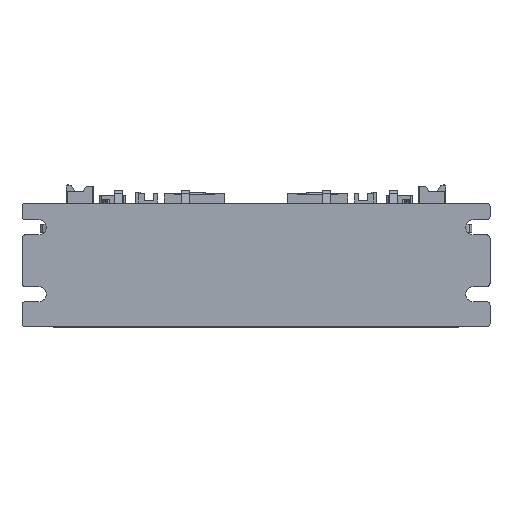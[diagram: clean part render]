
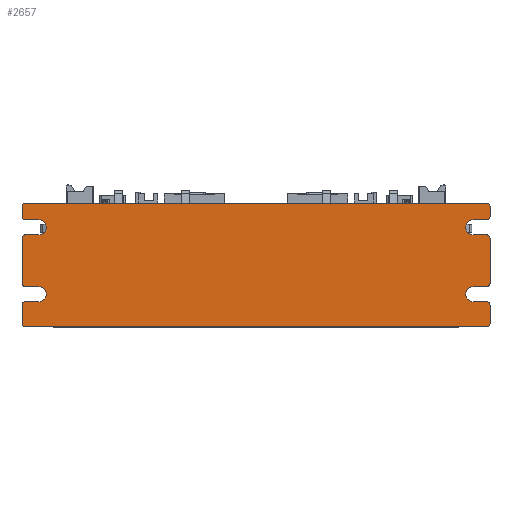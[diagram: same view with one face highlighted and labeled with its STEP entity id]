
A CAD part, top view. The second image highlights one B-rep face of the part: STEP entity #2657.
In plain terms, the highlighted planar face has unit normal (0, 0, 1).
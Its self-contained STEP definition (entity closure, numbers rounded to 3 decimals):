
#159=DIRECTION('',(1.,0.,0.));
#160=VECTOR('',#159,138.);
#161=CARTESIAN_POINT('',(-69.,0.,46.));
#162=LINE('',#161,#160);
#590=DIRECTION('',(0.,1.,0.));
#591=VECTOR('',#590,5.5);
#592=CARTESIAN_POINT('',(70.,1.,46.));
#593=LINE('',#592,#591);
#602=DIRECTION('',(0.,1.,0.));
#603=VECTOR('',#602,13.5);
#604=CARTESIAN_POINT('',(70.,13.,46.));
#605=LINE('',#604,#603);
#622=DIRECTION('',(0.,1.,0.));
#623=VECTOR('',#622,3.);
#624=CARTESIAN_POINT('',(70.,33.,46.));
#625=LINE('',#624,#623);
#638=CARTESIAN_POINT('',(-69.,1.,46.));
#639=DIRECTION('',(0.,0.,1.));
#640=DIRECTION('',(-1.,0.,0.));
#641=AXIS2_PLACEMENT_3D('',#638,#639,#640);
#643=CARTESIAN_POINT('',(-69.,6.5,46.));
#644=DIRECTION('',(0.,0.,1.));
#645=DIRECTION('',(0.,1.,0.));
#646=AXIS2_PLACEMENT_3D('',#643,#644,#645);
#648=DIRECTION('',(1.,0.,0.));
#649=VECTOR('',#648,4.);
#650=CARTESIAN_POINT('',(-69.,7.5,46.));
#651=LINE('',#650,#649);
#652=CARTESIAN_POINT('',(-65.,9.75,46.));
#653=DIRECTION('',(0.,0.,-1.));
#654=DIRECTION('',(0.,1.,0.));
#655=AXIS2_PLACEMENT_3D('',#652,#653,#654);
#657=DIRECTION('',(1.,0.,0.));
#658=VECTOR('',#657,4.);
#659=CARTESIAN_POINT('',(-69.,12.,46.));
#660=LINE('',#659,#658);
#661=CARTESIAN_POINT('',(-69.,13.,46.));
#662=DIRECTION('',(0.,0.,1.));
#663=DIRECTION('',(-1.,0.,0.));
#664=AXIS2_PLACEMENT_3D('',#661,#662,#663);
#666=CARTESIAN_POINT('',(-69.,26.5,46.));
#667=DIRECTION('',(0.,0.,1.));
#668=DIRECTION('',(0.,1.,0.));
#669=AXIS2_PLACEMENT_3D('',#666,#667,#668);
#671=DIRECTION('',(1.,0.,0.));
#672=VECTOR('',#671,4.);
#673=CARTESIAN_POINT('',(-69.,27.5,46.));
#674=LINE('',#673,#672);
#675=CARTESIAN_POINT('',(-65.,29.75,46.));
#676=DIRECTION('',(0.,0.,-1.));
#677=DIRECTION('',(0.,1.,0.));
#678=AXIS2_PLACEMENT_3D('',#675,#676,#677);
#680=DIRECTION('',(1.,0.,0.));
#681=VECTOR('',#680,4.);
#682=CARTESIAN_POINT('',(-69.,32.,46.));
#683=LINE('',#682,#681);
#684=CARTESIAN_POINT('',(-69.,33.,46.));
#685=DIRECTION('',(0.,0.,1.));
#686=DIRECTION('',(-1.,0.,0.));
#687=AXIS2_PLACEMENT_3D('',#684,#685,#686);
#689=CARTESIAN_POINT('',(-69.,36.,46.));
#690=DIRECTION('',(0.,0.,1.));
#691=DIRECTION('',(0.,1.,0.));
#692=AXIS2_PLACEMENT_3D('',#689,#690,#691);
#694=CARTESIAN_POINT('',(69.,36.,46.));
#695=DIRECTION('',(0.,0.,1.));
#696=DIRECTION('',(1.,0.,0.));
#697=AXIS2_PLACEMENT_3D('',#694,#695,#696);
#699=CARTESIAN_POINT('',(69.,33.,46.));
#700=DIRECTION('',(0.,0.,1.));
#701=DIRECTION('',(0.,-1.,0.));
#702=AXIS2_PLACEMENT_3D('',#699,#700,#701);
#704=DIRECTION('',(-1.,0.,0.));
#705=VECTOR('',#704,4.);
#706=CARTESIAN_POINT('',(69.,32.,46.));
#707=LINE('',#706,#705);
#708=CARTESIAN_POINT('',(65.,29.75,46.));
#709=DIRECTION('',(0.,0.,-1.));
#710=DIRECTION('',(0.,-1.,0.));
#711=AXIS2_PLACEMENT_3D('',#708,#709,#710);
#713=DIRECTION('',(-1.,0.,0.));
#714=VECTOR('',#713,4.);
#715=CARTESIAN_POINT('',(69.,27.5,46.));
#716=LINE('',#715,#714);
#717=CARTESIAN_POINT('',(69.,26.5,46.));
#718=DIRECTION('',(0.,0.,1.));
#719=DIRECTION('',(1.,0.,0.));
#720=AXIS2_PLACEMENT_3D('',#717,#718,#719);
#722=CARTESIAN_POINT('',(69.,13.,46.));
#723=DIRECTION('',(0.,0.,1.));
#724=DIRECTION('',(0.,-1.,0.));
#725=AXIS2_PLACEMENT_3D('',#722,#723,#724);
#727=DIRECTION('',(-1.,0.,0.));
#728=VECTOR('',#727,4.);
#729=CARTESIAN_POINT('',(69.,12.,46.));
#730=LINE('',#729,#728);
#731=CARTESIAN_POINT('',(65.,9.75,46.));
#732=DIRECTION('',(0.,0.,-1.));
#733=DIRECTION('',(0.,-1.,0.));
#734=AXIS2_PLACEMENT_3D('',#731,#732,#733);
#736=DIRECTION('',(-1.,0.,0.));
#737=VECTOR('',#736,4.);
#738=CARTESIAN_POINT('',(69.,7.5,46.));
#739=LINE('',#738,#737);
#740=CARTESIAN_POINT('',(69.,6.5,46.));
#741=DIRECTION('',(0.,0.,1.));
#742=DIRECTION('',(1.,0.,0.));
#743=AXIS2_PLACEMENT_3D('',#740,#741,#742);
#745=CARTESIAN_POINT('',(69.,1.,46.));
#746=DIRECTION('',(0.,0.,1.));
#747=DIRECTION('',(0.,-1.,0.));
#748=AXIS2_PLACEMENT_3D('',#745,#746,#747);
#758=DIRECTION('',(0.,-1.,0.));
#759=VECTOR('',#758,5.5);
#760=CARTESIAN_POINT('',(-70.,6.5,46.));
#761=LINE('',#760,#759);
#774=DIRECTION('',(0.,-1.,0.));
#775=VECTOR('',#774,13.5);
#776=CARTESIAN_POINT('',(-70.,26.5,46.));
#777=LINE('',#776,#775);
#790=DIRECTION('',(0.,-1.,0.));
#791=VECTOR('',#790,3.);
#792=CARTESIAN_POINT('',(-70.,36.,46.));
#793=LINE('',#792,#791);
#838=DIRECTION('',(1.,0.,0.));
#839=VECTOR('',#838,138.);
#840=CARTESIAN_POINT('',(-69.,37.,46.));
#841=LINE('',#840,#839);
#1433=CARTESIAN_POINT('',(-65.,12.,46.));
#1434=CARTESIAN_POINT('',(-65.,7.5,46.));
#1435=VERTEX_POINT('',#1433);
#1436=VERTEX_POINT('',#1434);
#1437=CARTESIAN_POINT('',(-65.,32.,46.));
#1438=CARTESIAN_POINT('',(-65.,27.5,46.));
#1439=VERTEX_POINT('',#1437);
#1440=VERTEX_POINT('',#1438);
#1441=CARTESIAN_POINT('',(65.,7.5,46.));
#1442=CARTESIAN_POINT('',(65.,12.,46.));
#1443=VERTEX_POINT('',#1441);
#1444=VERTEX_POINT('',#1442);
#1445=CARTESIAN_POINT('',(65.,27.5,46.));
#1446=CARTESIAN_POINT('',(65.,32.,46.));
#1447=VERTEX_POINT('',#1445);
#1448=VERTEX_POINT('',#1446);
#1461=CARTESIAN_POINT('',(-70.,1.,46.));
#1462=VERTEX_POINT('',#1461);
#1463=CARTESIAN_POINT('',(-69.,0.,46.));
#1464=VERTEX_POINT('',#1463);
#1469=CARTESIAN_POINT('',(-69.,7.5,46.));
#1470=VERTEX_POINT('',#1469);
#1471=CARTESIAN_POINT('',(-70.,6.5,46.));
#1472=VERTEX_POINT('',#1471);
#1473=CARTESIAN_POINT('',(-70.,13.,46.));
#1474=CARTESIAN_POINT('',(-69.,12.,46.));
#1475=VERTEX_POINT('',#1473);
#1476=VERTEX_POINT('',#1474);
#1485=CARTESIAN_POINT('',(-69.,27.5,46.));
#1486=VERTEX_POINT('',#1485);
#1487=CARTESIAN_POINT('',(-70.,26.5,46.));
#1488=VERTEX_POINT('',#1487);
#1489=CARTESIAN_POINT('',(-70.,33.,46.));
#1490=CARTESIAN_POINT('',(-69.,32.,46.));
#1491=VERTEX_POINT('',#1489);
#1492=VERTEX_POINT('',#1490);
#1497=CARTESIAN_POINT('',(-69.,37.,46.));
#1498=CARTESIAN_POINT('',(-70.,36.,46.));
#1499=VERTEX_POINT('',#1497);
#1500=VERTEX_POINT('',#1498);
#1505=CARTESIAN_POINT('',(69.,0.,46.));
#1506=CARTESIAN_POINT('',(70.,1.,46.));
#1507=VERTEX_POINT('',#1505);
#1508=VERTEX_POINT('',#1506);
#1513=CARTESIAN_POINT('',(70.,6.5,46.));
#1514=CARTESIAN_POINT('',(69.,7.5,46.));
#1515=VERTEX_POINT('',#1513);
#1516=VERTEX_POINT('',#1514);
#1525=CARTESIAN_POINT('',(69.,12.,46.));
#1526=VERTEX_POINT('',#1525);
#1527=CARTESIAN_POINT('',(70.,13.,46.));
#1528=VERTEX_POINT('',#1527);
#1529=CARTESIAN_POINT('',(70.,26.5,46.));
#1530=CARTESIAN_POINT('',(69.,27.5,46.));
#1531=VERTEX_POINT('',#1529);
#1532=VERTEX_POINT('',#1530);
#1537=CARTESIAN_POINT('',(69.,32.,46.));
#1539=VERTEX_POINT('',#1537);
#1541=CARTESIAN_POINT('',(70.,33.,46.));
#1542=VERTEX_POINT('',#1541);
#1549=CARTESIAN_POINT('',(70.,36.,46.));
#1550=VERTEX_POINT('',#1549);
#1551=CARTESIAN_POINT('',(69.,37.,46.));
#1552=VERTEX_POINT('',#1551);
#2591=CARTESIAN_POINT('',(-70.,0.,46.));
#2592=DIRECTION('',(0.,0.,1.));
#2593=DIRECTION('',(1.,0.,0.));
#2594=AXIS2_PLACEMENT_3D('',#2591,#2592,#2593);
#2595=PLANE('',#2594);
#2597=ORIENTED_EDGE('',*,*,#2596,.F.);
#2599=ORIENTED_EDGE('',*,*,#2598,.F.);
#2601=ORIENTED_EDGE('',*,*,#2600,.F.);
#2603=ORIENTED_EDGE('',*,*,#2602,.T.);
#2605=ORIENTED_EDGE('',*,*,#2604,.F.);
#2607=ORIENTED_EDGE('',*,*,#2606,.F.);
#2609=ORIENTED_EDGE('',*,*,#2608,.F.);
#2611=ORIENTED_EDGE('',*,*,#2610,.F.);
#2613=ORIENTED_EDGE('',*,*,#2612,.F.);
#2615=ORIENTED_EDGE('',*,*,#2614,.T.);
#2617=ORIENTED_EDGE('',*,*,#2616,.F.);
#2619=ORIENTED_EDGE('',*,*,#2618,.F.);
#2621=ORIENTED_EDGE('',*,*,#2620,.F.);
#2623=ORIENTED_EDGE('',*,*,#2622,.F.);
#2625=ORIENTED_EDGE('',*,*,#2624,.F.);
#2627=ORIENTED_EDGE('',*,*,#2626,.T.);
#2629=ORIENTED_EDGE('',*,*,#2628,.F.);
#2630=ORIENTED_EDGE('',*,*,#2566,.F.);
#2632=ORIENTED_EDGE('',*,*,#2631,.F.);
#2634=ORIENTED_EDGE('',*,*,#2633,.T.);
#2636=ORIENTED_EDGE('',*,*,#2635,.F.);
#2638=ORIENTED_EDGE('',*,*,#2637,.F.);
#2640=ORIENTED_EDGE('',*,*,#2639,.F.);
#2641=ORIENTED_EDGE('',*,*,#2548,.F.);
#2643=ORIENTED_EDGE('',*,*,#2642,.F.);
#2645=ORIENTED_EDGE('',*,*,#2644,.T.);
#2647=ORIENTED_EDGE('',*,*,#2646,.F.);
#2649=ORIENTED_EDGE('',*,*,#2648,.F.);
#2651=ORIENTED_EDGE('',*,*,#2650,.F.);
#2652=ORIENTED_EDGE('',*,*,#2533,.F.);
#2653=ORIENTED_EDGE('',*,*,#2583,.F.);
#2654=ORIENTED_EDGE('',*,*,#1838,.F.);
#2655=EDGE_LOOP('',(#2597,#2599,#2601,#2603,#2605,#2607,#2609,#2611,#2613,#2615,
#2617,#2619,#2621,#2623,#2625,#2627,#2629,#2630,#2632,#2634,#2636,#2638,#2640,
#2641,#2643,#2645,#2647,#2649,#2651,#2652,#2653,#2654));
#2656=FACE_OUTER_BOUND('',#2655,.F.);
#2657=ADVANCED_FACE('',(#2656),#2595,.T.);
#642=CIRCLE('',#641,1.);
#647=CIRCLE('',#646,1.);
#656=CIRCLE('',#655,2.25);
#665=CIRCLE('',#664,1.);
#670=CIRCLE('',#669,1.);
#679=CIRCLE('',#678,2.25);
#688=CIRCLE('',#687,1.);
#693=CIRCLE('',#692,1.);
#698=CIRCLE('',#697,1.);
#703=CIRCLE('',#702,1.);
#712=CIRCLE('',#711,2.25);
#721=CIRCLE('',#720,1.);
#726=CIRCLE('',#725,1.);
#735=CIRCLE('',#734,2.25);
#744=CIRCLE('',#743,1.);
#749=CIRCLE('',#748,1.);
#1838=EDGE_CURVE('',#1464,#1507,#162,.T.);
#2533=EDGE_CURVE('',#1508,#1515,#593,.T.);
#2548=EDGE_CURVE('',#1528,#1531,#605,.T.);
#2566=EDGE_CURVE('',#1542,#1550,#625,.T.);
#2583=EDGE_CURVE('',#1507,#1508,#749,.T.);
#2596=EDGE_CURVE('',#1462,#1464,#642,.T.);
#2598=EDGE_CURVE('',#1472,#1462,#761,.T.);
#2600=EDGE_CURVE('',#1470,#1472,#647,.T.);
#2602=EDGE_CURVE('',#1470,#1436,#651,.T.);
#2604=EDGE_CURVE('',#1435,#1436,#656,.T.);
#2606=EDGE_CURVE('',#1476,#1435,#660,.T.);
#2608=EDGE_CURVE('',#1475,#1476,#665,.T.);
#2610=EDGE_CURVE('',#1488,#1475,#777,.T.);
#2612=EDGE_CURVE('',#1486,#1488,#670,.T.);
#2614=EDGE_CURVE('',#1486,#1440,#674,.T.);
#2616=EDGE_CURVE('',#1439,#1440,#679,.T.);
#2618=EDGE_CURVE('',#1492,#1439,#683,.T.);
#2620=EDGE_CURVE('',#1491,#1492,#688,.T.);
#2622=EDGE_CURVE('',#1500,#1491,#793,.T.);
#2624=EDGE_CURVE('',#1499,#1500,#693,.T.);
#2626=EDGE_CURVE('',#1499,#1552,#841,.T.);
#2628=EDGE_CURVE('',#1550,#1552,#698,.T.);
#2631=EDGE_CURVE('',#1539,#1542,#703,.T.);
#2633=EDGE_CURVE('',#1539,#1448,#707,.T.);
#2635=EDGE_CURVE('',#1447,#1448,#712,.T.);
#2637=EDGE_CURVE('',#1532,#1447,#716,.T.);
#2639=EDGE_CURVE('',#1531,#1532,#721,.T.);
#2642=EDGE_CURVE('',#1526,#1528,#726,.T.);
#2644=EDGE_CURVE('',#1526,#1444,#730,.T.);
#2646=EDGE_CURVE('',#1443,#1444,#735,.T.);
#2648=EDGE_CURVE('',#1516,#1443,#739,.T.);
#2650=EDGE_CURVE('',#1515,#1516,#744,.T.);
